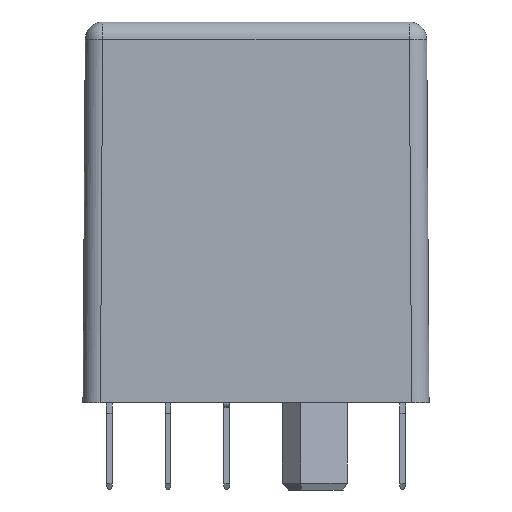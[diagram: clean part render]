
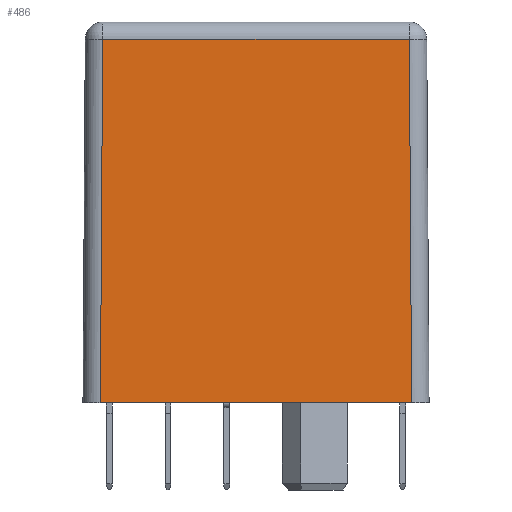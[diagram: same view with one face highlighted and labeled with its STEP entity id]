
A CAD part, left-side view. The second image highlights one B-rep face of the part: STEP entity #486.
In plain terms, the highlighted planar face has unit normal (-1, 0, 0.006).
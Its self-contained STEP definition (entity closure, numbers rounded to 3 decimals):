
#73=CARTESIAN_POINT('',(-9.703,-13.203,29.309));
#74=VERTEX_POINT('',#73);
#143=CARTESIAN_POINT('',(-9.703,13.203,29.309));
#144=VERTEX_POINT('',#143);
#291=CARTESIAN_POINT('',(-9.9,13.4,-2.));
#292=VERTEX_POINT('',#291);
#300=CARTESIAN_POINT('',(-9.9,13.4,-2.));
#301=DIRECTION('',(0.006,-0.006,1.));
#302=VECTOR('',#301,31.311);
#303=LINE('',#300,#302);
#304=EDGE_CURVE('',#292,#144,#303,.T.);
#322=CARTESIAN_POINT('',(-9.703,13.203,29.309));
#323=DIRECTION('',(0.0,-1.0,0.0));
#324=VECTOR('',#323,26.406);
#325=LINE('',#322,#324);
#326=EDGE_CURVE('',#144,#74,#325,.T.);
#397=CARTESIAN_POINT('',(-9.9,-13.4,-2.));
#398=VERTEX_POINT('',#397);
#415=CARTESIAN_POINT('',(-9.703,-13.203,29.309));
#416=DIRECTION('',(-0.006,-0.006,-1.));
#417=VECTOR('',#416,31.311);
#418=LINE('',#415,#417);
#419=EDGE_CURVE('',#74,#398,#418,.T.);
#470=CARTESIAN_POINT('',(-9.9,-14.9,-2.));
#471=DIRECTION('',(-1.,0.,0.006));
#472=DIRECTION('',(0.0,-1.0,0.0));
#473=AXIS2_PLACEMENT_3D('',#470,#471,#472);
#474=PLANE('',#473);
#475=ORIENTED_EDGE('',*,*,#304,.F.);
#476=CARTESIAN_POINT('',(-9.9,13.4,-2.));
#477=DIRECTION('',(0.0,-1.0,0.0));
#478=VECTOR('',#477,26.8);
#479=LINE('',#476,#478);
#480=EDGE_CURVE('',#292,#398,#479,.T.);
#481=ORIENTED_EDGE('',*,*,#480,.T.);
#482=ORIENTED_EDGE('',*,*,#419,.F.);
#483=ORIENTED_EDGE('',*,*,#326,.F.);
#484=EDGE_LOOP('',(#475,#481,#482,#483));
#485=FACE_OUTER_BOUND('',#484,.T.);
#486=ADVANCED_FACE('',(#485),#474,.T.);
